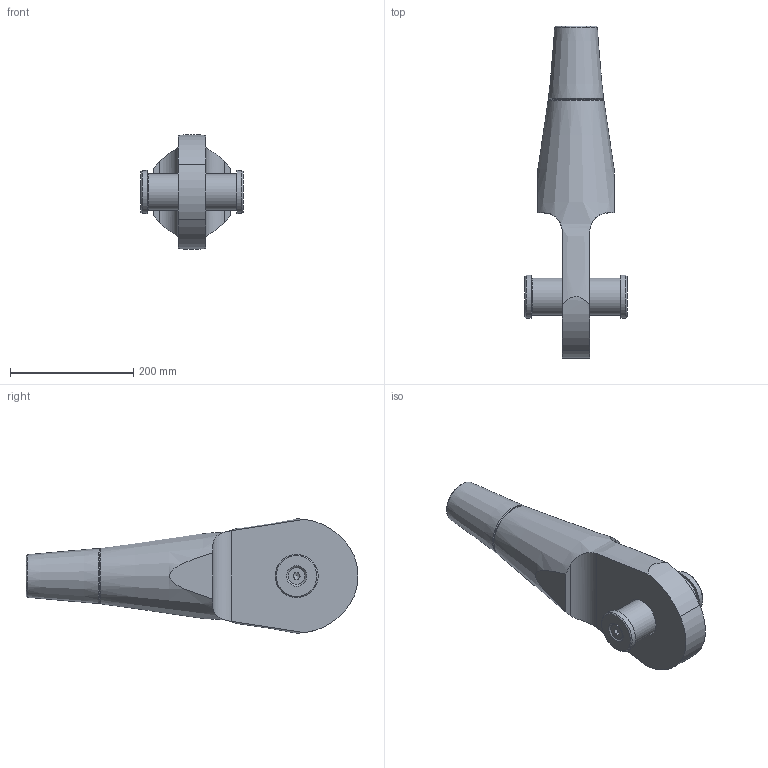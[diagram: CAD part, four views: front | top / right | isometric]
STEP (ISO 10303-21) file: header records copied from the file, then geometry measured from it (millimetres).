
FILE_DESCRIPTION(/* description */ (''),/* implementation_level */ '2;1');
FILE_NAME(/* name */ 'G:\Engineering\700 CAD\Internet-PX-1-step-igs-dxf\520-OES-Arbeitsdateien\520-060-OES.stp',/* time_stamp */ '2020-06-26T10:37:18+02:00',/* author */ ('schwarz'),/* organization */ (''),/* preprocessor_version */ 'ST-DEVELOPER v16.1',/* originating_system */ 'Autodesk Inventor 2016',/* authorisation */ '');
FILE_SCHEMA (('AUTOMOTIVE_DESIGN { 1 0 10303 214 3 1 1 }'));
Length unit declared in the file: centimetre
Products named in the file (1): 520-060-OES-KMU-Kunde
Bounding box: 166 x 539.23 x 185.65 mm (x, y, z)
Volume: 4370426.3 mm3; surface area: 270687.2 mm2
Topology: 2 solids, 4 shells, 49 faces, 108 edges, 70 vertices
Faces by surface type: plane 22, cylinder 14, cone 12, torus 1
Full cylindrical faces by diameter (mm): 13.835 x1, 14 x1, 17.5 x1, 26.52 x1, 60 x1, 62.5 x1, 63 x1, 70 x2
Entity records: 1384 total; most frequent: CARTESIAN_POINT 344, DIRECTION 198, ORIENTED_EDGE 158, AXIS2_PLACEMENT_3D 89, EDGE_CURVE 79, EDGE_LOOP 78, VERTEX_POINT 63, STYLED_ITEM 51
